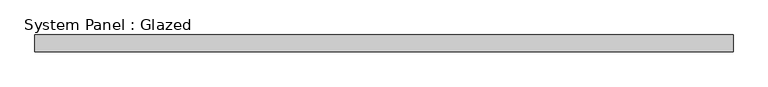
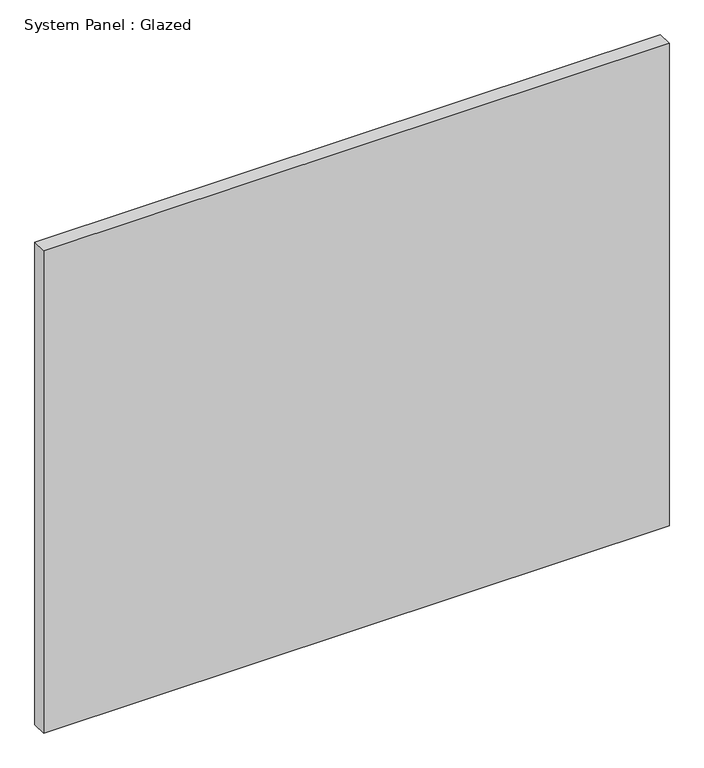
"""IFC4 building model written with IfcOpenShell, lengths in millimetres: plate geometry, System Panel : Glazed."""

import ifcopenshell
import ifcopenshell.guid

model = None  # the IFC model being written
_history = None  # IfcOwnerHistory: only IFC2X3 demands one
_inside = {}  # id of a spatial element -> (the spatial element, [elements in it])
_under = {}  # id of a project, library or spatial element -> (it, [spatial elements below it])
_declared = {}  # id of a project -> (the project, [libraries it declares])
_typed = {}  # id of a type object -> (the type object, [elements of that type])
_made_of = {}  # id of a material, layer set ... -> (it, [elements and type objects made of it])


def new_model(schema):
    """Start an empty IFC model of exactly this schema.

    Asked for "IFC4X3", IfcOpenShell would pick the latest addendum, in which some entities
    have other attributes; the version numbers below select the first issue.
    IFC2X3 requires an IfcOwnerHistory on every rooted entity: one is made here for all.
    """
    global model, _history
    if schema == "IFC4X3":
        model = ifcopenshell.file(schema_version=(4, 3, 0, 0))
    else:
        model = ifcopenshell.file(schema=schema)
    _inside.clear()
    _under.clear()
    _declared.clear()
    _typed.clear()
    _made_of.clear()
    _history = None
    if model.schema == "IFC2X3":
        org = make("IfcOrganization", Name="unknown")
        user = make(
            "IfcPersonAndOrganization",
            ThePerson=make("IfcPerson", FamilyName="unknown"),
            TheOrganization=org,
        )
        app = make(
            "IfcApplication",
            ApplicationDeveloper=org,
            Version="unknown",
            ApplicationFullName="unknown",
            ApplicationIdentifier="unknown",
        )
        _history = make(
            "IfcOwnerHistory",
            OwningUser=user,
            OwningApplication=app,
            ChangeAction="ADDED",
            CreationDate=0,
        )
    return model


def make(cls, **values):
    """One entity of the class cls with the attributes given. An attribute that is None is left unset."""
    return model.create_entity(
        cls, **{name: value for name, value in values.items() if value is not None}
    )


def rooted(cls, **values):
    """An entity with a GlobalId (a new one), such as an element, a storey or a relation."""
    return make(cls, GlobalId=ifcopenshell.guid.new(), OwnerHistory=_history, **values)


def si_unit(unit_type, name, prefix=None):
    """IfcSIUnit, for example si_unit("LENGTHUNIT", "METRE", prefix="MILLI")."""
    return make("IfcSIUnit", UnitType=unit_type, Prefix=prefix, Name=name)


def assignment(units):
    """IfcUnitAssignment: the units of a project."""
    return None if units is None else make("IfcUnitAssignment", Units=units)


def point(xyz):
    """IfcCartesianPoint."""
    return None if xyz is None else make("IfcCartesianPoint", Coordinates=xyz)


def direction(xyz):
    """IfcDirection."""
    return None if xyz is None else make("IfcDirection", DirectionRatios=xyz)


def frame(location, z_axis=None, x_axis=None):
    """IfcAxis2Placement3D, a coordinate frame: its origin and axes. An axis left out is left unset."""
    return make(
        "IfcAxis2Placement3D",
        Location=point(location),
        Axis=direction(z_axis),
        RefDirection=direction(x_axis),
    )


def origin():
    """The frame at (0, 0, 0) with its axes left unset."""
    return frame((0.0, 0.0, 0.0))


def origin_with_axes():
    """The frame at (0, 0, 0) with the z axis (0, 0, 1) and the x axis (1, 0, 0) written out."""
    return frame((0.0, 0.0, 0.0), z_axis=(0.0, 0.0, 1.0), x_axis=(1.0, 0.0, 0.0))


def place(relative_to, where):
    """IfcLocalPlacement: puts the frame where relative to a parent placement (None: the world)."""
    return make(
        "IfcLocalPlacement", PlacementRelTo=relative_to, RelativePlacement=where
    )


def context(
    kind, dimensions, precision=None, world=None, true_north=None, identifier=None
):
    """IfcGeometricRepresentationContext, for example the 3D "Model" context."""
    return make(
        "IfcGeometricRepresentationContext",
        ContextIdentifier=identifier,
        ContextType=kind,
        CoordinateSpaceDimension=dimensions,
        Precision=precision,
        WorldCoordinateSystem=world,
        TrueNorth=true_north,
    )


def project(units=None, contexts=None):
    """IfcProject with its units and contexts."""
    return rooted(
        "IfcProject",
        Name="project",
        RepresentationContexts=contexts,
        UnitsInContext=assignment(units),
    )


def spatial(cls, under=None, at=None, **own):
    """A site, building, storey or space (cls), placed at a placement, below another one or the project."""
    s = rooted(cls, ObjectPlacement=at, **own)
    if under is not None:
        _under.setdefault(under.id(), (under, []))[1].append(s)
    return s


def polyline(points):
    """IfcPolyline through the points."""
    return make("IfcPolyline", Points=[point(p) for p in points])


def outline(outer, holes=None, kind="AREA"):
    """IfcArbitraryClosedProfileDef: a profile drawn as a closed curve; with holes, ...WithVoids."""
    if holes is None:
        return make("IfcArbitraryClosedProfileDef", ProfileType=kind, OuterCurve=outer)
    return make(
        "IfcArbitraryProfileDefWithVoids",
        ProfileType=kind,
        OuterCurve=outer,
        InnerCurves=holes,
    )


def extrude(swept, where, along, depth):
    """IfcExtrudedAreaSolid: the profile swept, set in the frame where, extruded along a direction by depth."""
    return make(
        "IfcExtrudedAreaSolid",
        SweptArea=swept,
        Position=where,
        ExtrudedDirection=direction(along),
        Depth=depth,
    )


def shape(context_of_items, identifier, shape_type, items):
    """IfcShapeRepresentation: the items that make up one representation, for example the "Body"."""
    return make(
        "IfcShapeRepresentation",
        ContextOfItems=context_of_items,
        RepresentationIdentifier=identifier,
        RepresentationType=shape_type,
        Items=items,
    )


def source(mapping_origin, context_of_items, identifier, shape_type, items):
    """IfcRepresentationMap: a shape defined once, which mapped items show again and again."""
    return make(
        "IfcRepresentationMap",
        MappingOrigin=mapping_origin,
        MappedRepresentation=shape(context_of_items, identifier, shape_type, items),
    )


def transform(
    local_origin,
    x_axis=None,
    y_axis=None,
    z_axis=None,
    scale=None,
    scale2=None,
    scale3=None,
    uniform=True,
):
    """IfcCartesianTransformationOperator3D, or its non-uniform kind. x_axis, y_axis, z_axis: its Axis1, 2, 3."""
    if uniform:
        return make(
            "IfcCartesianTransformationOperator3D",
            Axis1=direction(x_axis),
            Axis2=direction(y_axis),
            LocalOrigin=point(local_origin),
            Scale=scale,
            Axis3=direction(z_axis),
        )
    return make(
        "IfcCartesianTransformationOperator3DnonUniform",
        Axis1=direction(x_axis),
        Axis2=direction(y_axis),
        LocalOrigin=point(local_origin),
        Scale=scale,
        Axis3=direction(z_axis),
        Scale2=scale2,
        Scale3=scale3,
    )


def mapped(mapping_source, mapping_target):
    """IfcMappedItem: shows the shape of a source again, moved by a transform."""
    return make(
        "IfcMappedItem", MappingSource=mapping_source, MappingTarget=mapping_target
    )


def made_of(thing, what):
    """Note that an element or type object is made of a material, layer set ...; save() writes the relation."""
    if what is not None:
        _made_of.setdefault(what.id(), (what, []))[1].append(thing)
    return thing


def element(
    cls,
    number,
    at=None,
    inside=None,
    cuts=None,
    type_object=None,
    material=None,
    context=None,
    identifier="Body",
    shape_type=None,
    held_by="IfcProductDefinitionShape",
    body=None,
    shapes=None,
    **own,
):
    """One element of the class cls, such as IfcWall. Its Tag is "e" and its number.

    at: its placement. inside: the storey or other place that contains it. cuts: it is an
    opening in that element (IfcRelVoidsElement). A single representation is given by context,
    identifier, shape_type and body (its items); several are given by shapes. held_by: the class
    of the entity that holds the representations. save() writes the other relations.
    """
    e = rooted(cls, Tag="e%d" % number, ObjectPlacement=at, **own)
    if body is not None:
        shapes = [shape(context, identifier, shape_type, body)]
    if shapes is not None:
        e.Representation = make(held_by, Representations=shapes)
    if inside is not None:
        _inside.setdefault(inside.id(), (inside, []))[1].append(e)
    if cuts is not None:
        rooted(
            "IfcRelVoidsElement", RelatingBuildingElement=cuts, RelatedOpeningElement=e
        )
    if type_object is not None:
        _typed.setdefault(type_object.id(), (type_object, []))[1].append(e)
    return made_of(e, material)


def aggregate(whole, parts):
    """IfcRelAggregates: a whole, such as a stair, and the parts it consists of."""
    return rooted("IfcRelAggregates", RelatingObject=whole, RelatedObjects=parts)


def save(model, path):
    """Write the relations noted so far, then the file.

    IfcRelAggregates (storeys below a building ...), IfcRelContainedInSpatialStructure (elements
    in a storey), IfcRelDefinesByType, IfcRelAssociatesMaterial and IfcRelDeclares: one each for
    every whole, place, type object, material and project.
    """
    for whole, parts in _under.values():
        aggregate(whole, parts)
    for where, things in _inside.values():
        rooted(
            "IfcRelContainedInSpatialStructure",
            RelatedElements=things,
            RelatingStructure=where,
        )
    for kind, things in _typed.values():
        rooted("IfcRelDefinesByType", RelatedObjects=things, RelatingType=kind)
    for what, things in _made_of.values():
        rooted("IfcRelAssociatesMaterial", RelatedObjects=things, RelatingMaterial=what)
    for by, libraries in _declared.values():
        rooted("IfcRelDeclares", RelatingContext=by, RelatedDefinitions=libraries)
    model.write(path)


def system_panel_glazed_5b8ca2f9(model_context):
    return source(origin(), model_context, "Body", "SweptSolid", [
        extrude(outline(polyline([(533.4, 19.05), (-533.4, 19.05), (-533.4, 44.45), (533.4, 44.45), (533.4, 19.05)])), origin_with_axes(), (0.0, 0.0, 1.0), 869.95),
    ])


if __name__ == "__main__":
    model = new_model("IFC4")
    model_context = context("Model", 3, world=origin())
    ifc_project = project(units=[si_unit("LENGTHUNIT", "METRE", prefix="MILLI")], contexts=[model_context])
    site = spatial("IfcSite", under=ifc_project)
    building = spatial("IfcBuilding", under=site)
    placement = place(None, origin())
    system_panel_glazed_shape = system_panel_glazed_5b8ca2f9(model_context)
    element("IfcPlate", 1, ObjectType="System Panel : Glazed", at=placement, inside=building, context=model_context, shape_type="MappedRepresentation", body=[
        mapped(system_panel_glazed_shape, transform((0.0, 0.0, 0.0), x_axis=(1.0, 0.0, 0.0), y_axis=(0.0, 1.0, 0.0), z_axis=(0.0, 0.0, 1.0))),
    ])
    save(model, "model.ifc")
